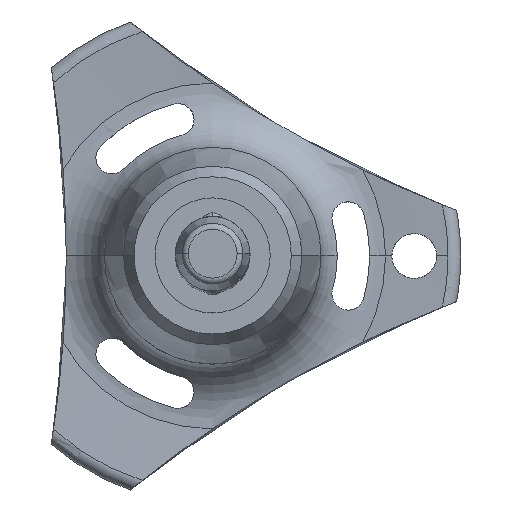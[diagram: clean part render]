
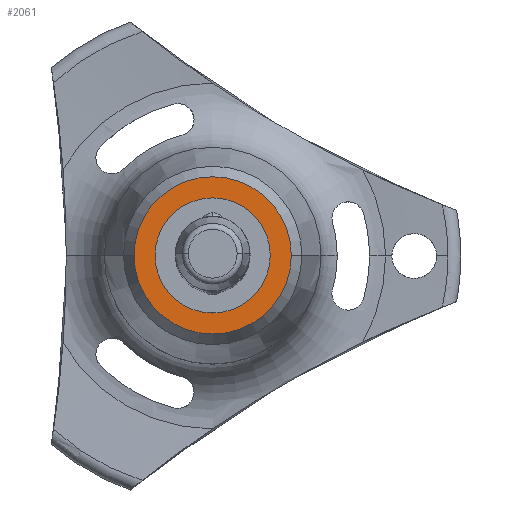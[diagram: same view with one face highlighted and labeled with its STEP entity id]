
A CAD part, top view. The second image highlights one B-rep face of the part: STEP entity #2061.
In plain terms, the highlighted planar face has unit normal (0, 0, 1).
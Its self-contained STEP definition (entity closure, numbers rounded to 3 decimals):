
#55 = AXIS2_PLACEMENT_3D ( 'NONE', #1327, #2125, #943 ) ;
#90 = DIRECTION ( 'NONE',  ( 0., 0., 1. ) ) ;
#252 = CARTESIAN_POINT ( 'NONE',  ( 5.262, 0., -60.4 ) ) ;
#334 = DIRECTION ( 'NONE',  ( 1., 0., 0. ) ) ;
#369 = AXIS2_PLACEMENT_3D ( 'NONE', #561, #1223, #593 ) ;
#483 = AXIS2_PLACEMENT_3D ( 'NONE', #1207, #90, #334 ) ;
#561 = CARTESIAN_POINT ( 'NONE',  ( 0., 0., -60.4 ) ) ;
#578 = PLANE ( 'NONE',  #483 ) ;
#593 = DIRECTION ( 'NONE',  ( -1., 0., 0. ) ) ;
#611 = VERTEX_POINT ( 'NONE', #2434 ) ;
#648 = EDGE_CURVE ( 'NONE', #1354, #611, #1043, .T. ) ;
#727 = EDGE_CURVE ( 'NONE', #2587, #2176, #2153, .T. ) ;
#793 = CARTESIAN_POINT ( 'NONE',  ( 0., 0., -60.4 ) ) ;
#859 = DIRECTION ( 'NONE',  ( -1., 0., 0. ) ) ;
#943 = DIRECTION ( 'NONE',  ( -1., 0., 0. ) ) ;
#1043 = CIRCLE ( 'NONE', #369, 5.262 ) ;
#1070 = EDGE_LOOP ( 'NONE', ( #1365, #2584 ) ) ;
#1164 = ORIENTED_EDGE ( 'NONE', *, *, #1352, .T. ) ;
#1207 = CARTESIAN_POINT ( 'NONE',  ( 0., 3.852, -60.4 ) ) ;
#1223 = DIRECTION ( 'NONE',  ( 0., 0., -1. ) ) ;
#1293 = CARTESIAN_POINT ( 'NONE',  ( 3.852, 0., -60.4 ) ) ;
#1327 = CARTESIAN_POINT ( 'NONE',  ( 0., 0., -60.4 ) ) ;
#1352 = EDGE_CURVE ( 'NONE', #2176, #2587, #2222, .T. ) ;
#1354 = VERTEX_POINT ( 'NONE', #252 ) ;
#1365 = ORIENTED_EDGE ( 'NONE', *, *, #1483, .F. ) ;
#1414 = DIRECTION ( 'NONE',  ( 0., 0., -1. ) ) ;
#1453 = ORIENTED_EDGE ( 'NONE', *, *, #727, .T. ) ;
#1483 = EDGE_CURVE ( 'NONE', #611, #1354, #2389, .T. ) ;
#1500 = DIRECTION ( 'NONE',  ( 0., 0., -1. ) ) ;
#1735 = CARTESIAN_POINT ( 'NONE',  ( 0., 0., -60.4 ) ) ;
#1743 = AXIS2_PLACEMENT_3D ( 'NONE', #793, #1414, #2088 ) ;
#2023 = EDGE_LOOP ( 'NONE', ( #1453, #1164 ) ) ;
#2053 = FACE_BOUND ( 'NONE', #2023, .T. ) ;
#2061 = ADVANCED_FACE ( 'NONE', ( #2053, #2679 ), #578, .T. ) ;
#2088 = DIRECTION ( 'NONE',  ( -1., 0., 0. ) ) ;
#2102 = AXIS2_PLACEMENT_3D ( 'NONE', #1735, #1500, #859 ) ;
#2125 = DIRECTION ( 'NONE',  ( 0., 0., -1. ) ) ;
#2153 = CIRCLE ( 'NONE', #1743, 3.852 ) ;
#2176 = VERTEX_POINT ( 'NONE', #1293 ) ;
#2222 = CIRCLE ( 'NONE', #2102, 3.852 ) ;
#2389 = CIRCLE ( 'NONE', #55, 5.262 ) ;
#2434 = CARTESIAN_POINT ( 'NONE',  ( -5.262, 0., -60.4 ) ) ;
#2572 = CARTESIAN_POINT ( 'NONE',  ( -3.852, 0., -60.4 ) ) ;
#2584 = ORIENTED_EDGE ( 'NONE', *, *, #648, .F. ) ;
#2587 = VERTEX_POINT ( 'NONE', #2572 ) ;
#2679 = FACE_OUTER_BOUND ( 'NONE', #1070, .T. ) ;
